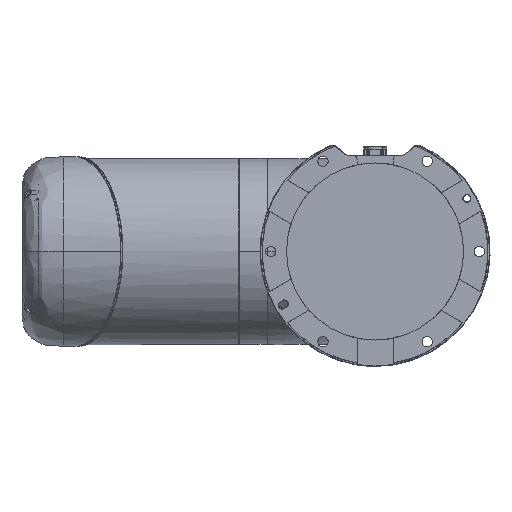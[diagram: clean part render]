
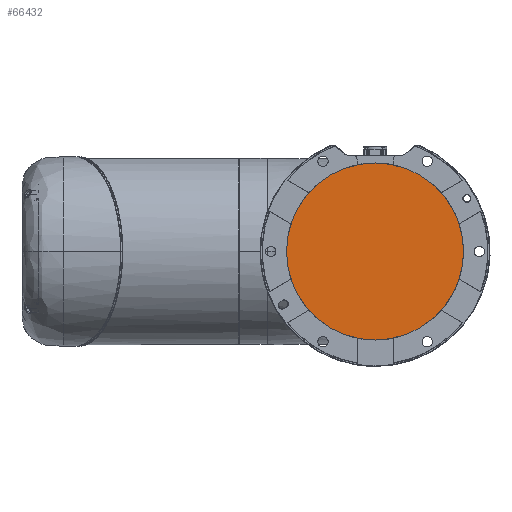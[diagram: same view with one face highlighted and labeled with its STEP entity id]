
A CAD part, front view. The second image highlights one B-rep face of the part: STEP entity #66432.
In plain terms, the highlighted planar face has unit normal (0, -1, 0).
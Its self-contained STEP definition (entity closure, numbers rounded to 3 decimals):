
#3753 = DIRECTION ( 'NONE',  ( 0., 0., -1. ) ) ;
#25584 = ORIENTED_EDGE ( 'NONE', *, *, #88723, .T. ) ;
#28682 = CARTESIAN_POINT ( 'NONE',  ( 0., 2.8, -98.5 ) ) ;
#29469 = EDGE_LOOP ( 'NONE', ( #165209, #25584 ) ) ;
#29497 = AXIS2_PLACEMENT_3D ( 'NONE', #68073, #175788, #78863 ) ;
#45519 = VERTEX_POINT ( 'NONE', #74782 ) ;
#45969 = CARTESIAN_POINT ( 'NONE',  ( 0., 2.8, 0. ) ) ;
#61009 = CIRCLE ( 'NONE', #29497, 98.5 ) ;
#66432 = ADVANCED_FACE ( 'NONE', ( #156837 ), #154189, .T. ) ;
#68073 = CARTESIAN_POINT ( 'NONE',  ( 0., 2.8, 0. ) ) ;
#73443 = DIRECTION ( 'NONE',  ( 0., -1., 0. ) ) ;
#74782 = CARTESIAN_POINT ( 'NONE',  ( 0., 2.8, 98.5 ) ) ;
#78863 = DIRECTION ( 'NONE',  ( 0., 0., -1. ) ) ;
#87363 = AXIS2_PLACEMENT_3D ( 'NONE', #99411, #73443, #128118 ) ;
#88723 = EDGE_CURVE ( 'NONE', #45519, #162853, #143687, .T. ) ;
#92941 = EDGE_CURVE ( 'NONE', #162853, #45519, #61009, .T. ) ;
#99411 = CARTESIAN_POINT ( 'NONE',  ( 0., 2.8, 0. ) ) ;
#120756 = AXIS2_PLACEMENT_3D ( 'NONE', #45969, #154496, #3753 ) ;
#128118 = DIRECTION ( 'NONE',  ( 0., 0., -1. ) ) ;
#143687 = CIRCLE ( 'NONE', #120756, 98.5 ) ;
#154189 = PLANE ( 'NONE',  #87363 ) ;
#154496 = DIRECTION ( 'NONE',  ( 0., -1., 0. ) ) ;
#156837 = FACE_OUTER_BOUND ( 'NONE', #29469, .T. ) ;
#162853 = VERTEX_POINT ( 'NONE', #28682 ) ;
#165209 = ORIENTED_EDGE ( 'NONE', *, *, #92941, .T. ) ;
#175788 = DIRECTION ( 'NONE',  ( 0., -1., 0. ) ) ;
